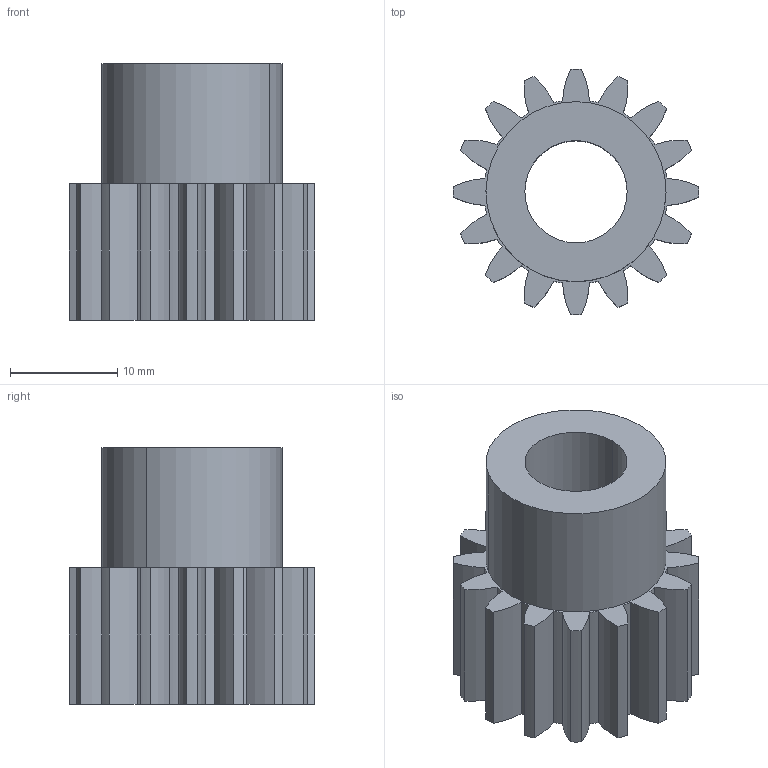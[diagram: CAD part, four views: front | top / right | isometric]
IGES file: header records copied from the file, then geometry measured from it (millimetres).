
Global section: file name: C:\Documents and Settings\Administrator\Desktop\Transfer Temp\gss-2016.igs; native system: AutoDesk Inventor R2.0 ; preprocessor: AutoDesk Inventor Iges Exporter R2.0; author: No Author specified; organization: No Organization specified; date: 20011229.165952; units: inch
Bounding box: 22.86 x 22.86 x 23.88 mm (x, y, z)
Surface area: 3418.9 mm2 (no closed solid volume)
Topology: 0 solids, 0 shells, 71 faces, 408 edges, 408 vertices
Faces by surface type: revolution 66, bspline 5
